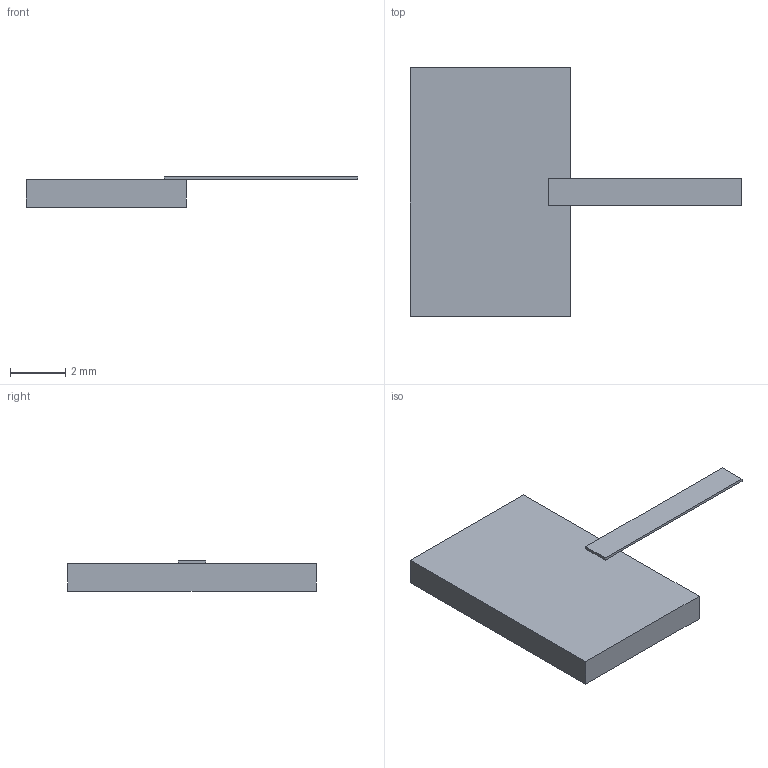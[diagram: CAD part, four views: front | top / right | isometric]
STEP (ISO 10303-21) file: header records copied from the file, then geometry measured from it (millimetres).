
FILE_DESCRIPTION(('STEP AP203'), '1');
FILE_NAME('P1-170-100-28', '', ('UNSPECIFIED'), ('UNSPECIFIED'), 'ASCON STEP Converter 1.6', 'ASCON Math Kernel', '');
FILE_SCHEMA(('CONFIG_CONTROL_DESIGN'));
Length unit declared in the file: millimetre
Bounding box: 12 x 9 x 1.1 mm (x, y, z)
Volume: 52.9 mm3; surface area: 148 mm2
Topology: 1 solids, 1 shells, 12 faces, 28 edges, 18 vertices
Faces by surface type: plane 12
Entity records: 476 total; most frequent: CARTESIAN_POINT 59, ORIENTED_EDGE 56, DIRECTION 54, EDGE_CURVE 28, LINE 28, VECTOR 28, VERTEX_POINT 18, AXIS2_PLACEMENT_3D 13
